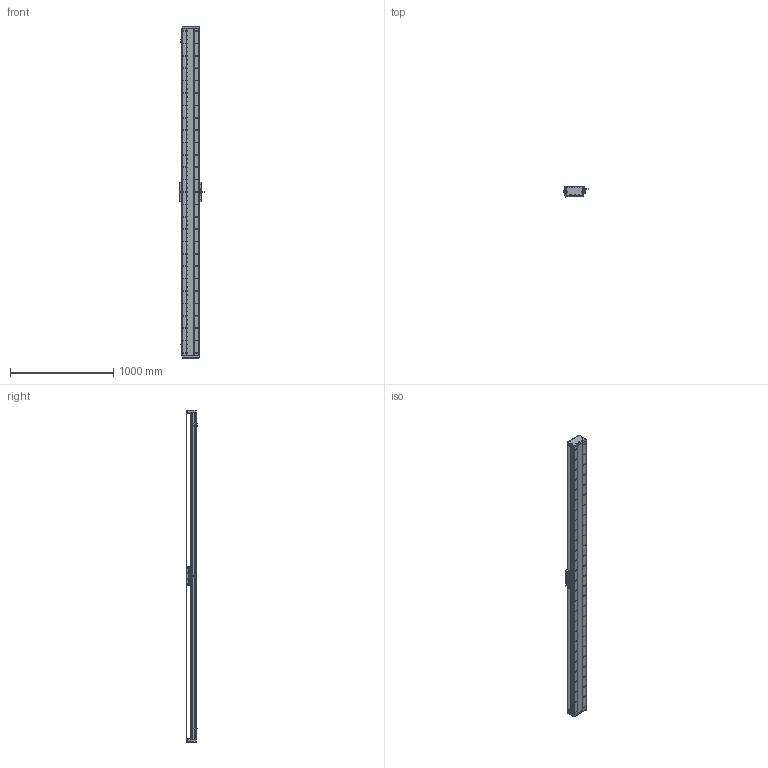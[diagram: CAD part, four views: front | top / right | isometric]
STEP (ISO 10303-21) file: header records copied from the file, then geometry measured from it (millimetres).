
FILE_DESCRIPTION (( 'STEP AP203' ), '1' );
FILE_NAME ('DA-C165-C2-T2940-C010-0.2 直线电机.STEP', '2023-05-11T07:53:26', ( '微软用户' ), ( '微软中国' ), 'SwSTEP 2.0', 'SolidWorks 2019', '' );
FILE_SCHEMA (( 'CONFIG_CONTROL_DESIGN' ));
Length unit declared in the file: millimetre
Products named in the file (18): 复件 DA165-GDYK-00 钢带压块^复件 CU165钢带组件_DA-C165-C2-T-C010-0.2-N 直线电机; 复件 XD-U-02L 磁栅尺^DA-C165-C2-T-C010-0.2-N 直线电机_T; 复件 DA165-GD-DG-H-00 端盖^复件 CU165钢带组件_DA-C165-C2-T-C010-0.2-N 直线电机; 复件 DA95-HXJ-00 缓冲橡胶^DA-C165-C2-T-C010-0.2-N 直线电机; 复件 CU165钢带组件^DA-C165-C2-T-C010-0.2-N 直线电机; IU-CU165-L 菁釱絳寢; 珨极趙賑雄怢啣wf-C2; 复件 六角薄螺母 M3^DA-C165-C2-T-C010-0.2-N 直线电机_GB_FASTENER_NUT_STNAB M3-C; 葩璃 PM-T45^DA-C165-C2-T-C010-0.2-N 眻盄萇儂; 葩璃 DA95-GT-T-00^IU-CU165-L 菁釱絳寢_T; 复件 DA165-GYP-00 光电感应片^DA-C165-C2-T-C010-0.2-N 直线电机; 葩璃 CKM01-W075-TRL^DA-C165-C2-T-C010-0.2-N 眻盄萇儂; 复件 DMA-010-0.2 读数头^DA-C165-C2-T-C010-0.2-N 直线电机; DA-C165-C2-T2940-C010-0.2 眻盄萇儂; IU-CU165-L-00 菁釱_L3180; 复件 DA165-GD-1860-002-00 钢带盖板^复件 CU165钢带组件_DA-C165-C2-T-C010-0.2-N 直线电机; 复件 CKM02-W075-C1C2-TP-3.0 一体电机-C2^DA-C165-C2-T-C010-0.2-N 直线电机; 复件 DA165-GDLK-00 钢带拉块^复件 CU165钢带组件_DA-C165-C2-T-C010-0.2-N 直线电机
Assembly tree (33 placements, depth 3):
  DA-C165-C2-T2940-C010-0.2 眻盄萇儂
    IU-CU165-L 菁釱絳寢
      IU-CU165-L-00 菁釱_L3180
      葩璃 DA95-GT-T-00^IU-CU165-L 菁釱絳寢_T  x4
    复件 XD-U-02L 磁栅尺^DA-C165-C2-T-C010-0.2-N 直线电机_T
    葩璃 PM-T45^DA-C165-C2-T-C010-0.2-N 眻盄萇儂  x3
    葩璃 CKM01-W075-TRL^DA-C165-C2-T-C010-0.2-N 眻盄萇儂
    复件 CU165钢带组件^DA-C165-C2-T-C010-0.2-N 直线电机
      复件 DA165-GD-DG-H-00 端盖^复件 CU165钢带组件_DA-C165-C2-T-C010-0.2-N 直线电机  x2
      复件 DA165-GDYK-00 钢带压块^复件 CU165钢带组件_DA-C165-C2-T-C010-0.2-N 直线电机  x2
      复件 DA165-GD-1860-002-00 钢带盖板^复件 CU165钢带组件_DA-C165-C2-T-C010-0.2-N 直线电机
      复件 DA165-GDLK-00 钢带拉块^复件 CU165钢带组件_DA-C165-C2-T-C010-0.2-N 直线电机  x2
    复件 DA95-HXJ-00 缓冲橡胶^DA-C165-C2-T-C010-0.2-N 直线电机  x4
    复件 DA165-GYP-00 光电感应片^DA-C165-C2-T-C010-0.2-N 直线电机
    复件 DMA-010-0.2 读数头^DA-C165-C2-T-C010-0.2-N 直线电机
    复件 CKM02-W075-C1C2-TP-3.0 一体电机-C2^DA-C165-C2-T-C010-0.2-N 直线电机
    复件 六角薄螺母 M3^DA-C165-C2-T-C010-0.2-N 直线电机_GB_FASTENER_NUT_STNAB M3-C  x6
    珨极趙賑雄怢啣wf-C2
Bounding box: 233 x 111.45 x 3220 mm (x, y, z)
Volume: 17427879.5 mm3; surface area: 5309972.6 mm2
Topology: 70 solids, 70 shells, 4191 faces, 12567 edges, 8067 vertices
Faces by surface type: cylinder 2589, plane 1122, cone 430, torus 46, sphere 4
Entity records: 146729 total; most frequent: CARTESIAN_POINT 41245, ORIENTED_EDGE 22306, DIRECTION 21073, EDGE_CURVE 11153, AXIS2_PLACEMENT_3D 8083, VERTEX_POINT 7303, EDGE_LOOP 5040, LINE 4907
